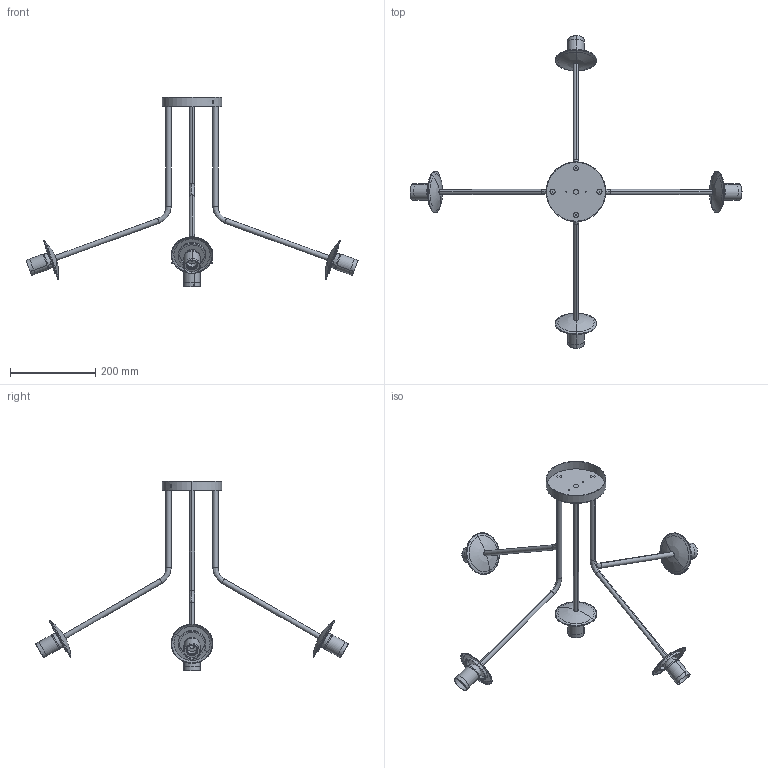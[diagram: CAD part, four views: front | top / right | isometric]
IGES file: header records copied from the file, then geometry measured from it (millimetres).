
Start section: SolidWorks IGES file using analytic representation for surfaces
Global section: file name: \\192.168.111.232\grupos\DISENYO\DESARROLLO DE PRODUCTO\PARMA-3946\PARMA - C3946480 - COLGANTE 5 LUCES\C3946480 - COLGANTE 5 LUCES.IGS; native system: SolidWorks 2025; preprocessor: SolidWorks 2025; author: o.domenech; date: 260213.133939; units: millimetre
Bounding box: 778.88 x 733.45 x 444.45 mm (x, y, z)
Volume: 635781.1 mm3; surface area: 298260.6 mm2
Topology: 16 solids, 16 shells, 365 faces, 2585 edges, 3075 vertices
Faces by surface type: revolution 271, plane 70, bspline 24
